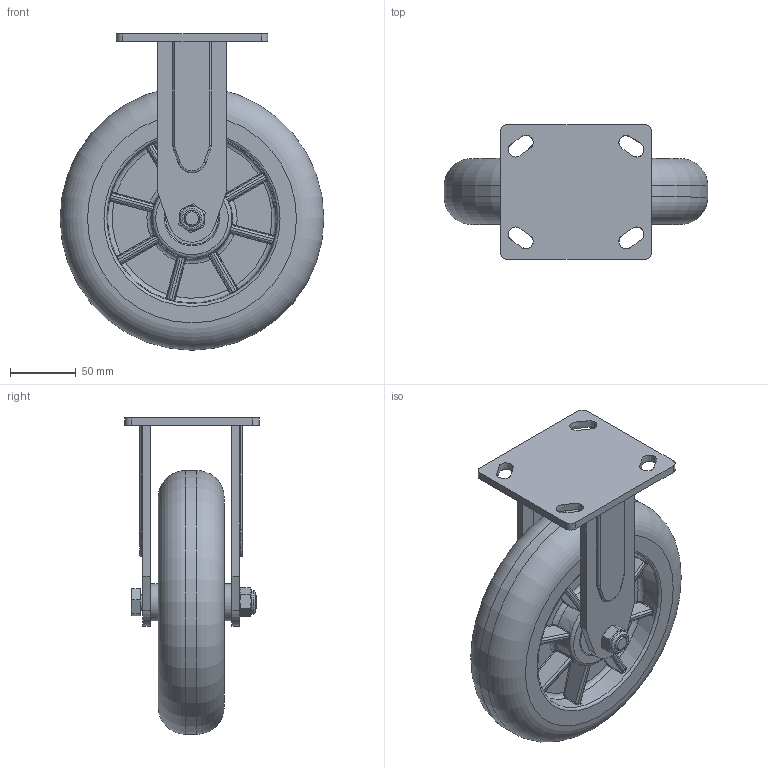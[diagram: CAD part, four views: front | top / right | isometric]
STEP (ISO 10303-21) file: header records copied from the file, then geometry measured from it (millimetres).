
FILE_DESCRIPTION(/* description */ (''),/* implementation_level */ '2;1');
FILE_NAME(/* name */ '35A71_8_F.stp',/* time_stamp */ '2022-08-27T16:07:10+08:00',/* author */ (''),/* organization */ (''),/* preprocessor_version */ 'ST-DEVELOPER v14',/* originating_system */ 'SIEMENS PLM Software NX 8.0',/* authorisation */ '');
FILE_SCHEMA (('AUTOMOTIVE_DESIGN { 1 0 10303 214 3 1 1 1 }'));
Length unit declared in the file: millimetre
Products named in the file (1): 35A71_8_F
Bounding box: 200 x 102 x 240 mm (x, y, z)
Volume: 1265248.2 mm3; surface area: 181388.9 mm2
Topology: 1 solids, 4 shells, 769 faces, 1902 edges, 1170 vertices
Faces by surface type: plane 293, bspline 253, cylinder 128, cone 46, torus 45, extrusion 4
Full cylindrical faces by diameter (mm): 12 x5, 18 x1, 20.5 x2, 28 x2, 39.85 x2, 200 x1
Entity records: 26587 total; most frequent: CARTESIAN_POINT 10801, ORIENTED_EDGE 3698, DIRECTION 2655, EDGE_CURVE 1849, VERTEX_POINT 1149, AXIS2_PLACEMENT_3D 1072, EDGE_LOOP 846, B_SPLINE_CURVE_WITH_KNOTS 775
